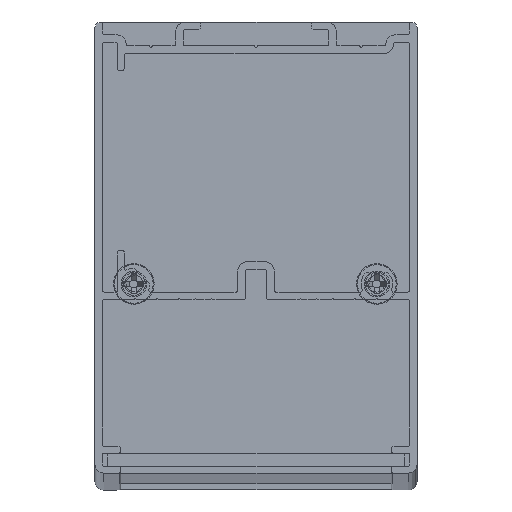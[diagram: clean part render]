
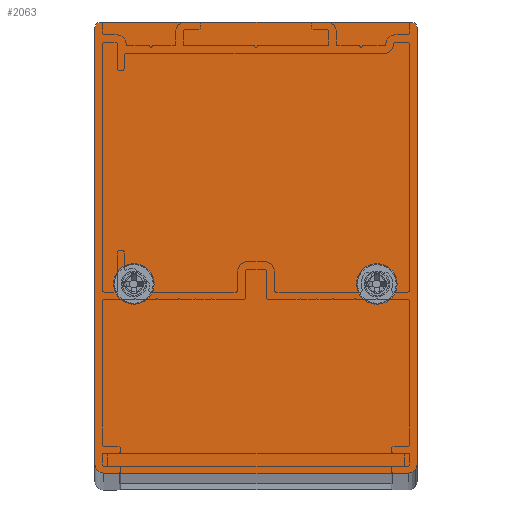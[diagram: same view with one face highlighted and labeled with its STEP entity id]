
A CAD part, top view. The second image highlights one B-rep face of the part: STEP entity #2063.
In plain terms, the highlighted planar face has unit normal (0, 0, 1).
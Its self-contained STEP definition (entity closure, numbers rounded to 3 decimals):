
#2063=ADVANCED_FACE('',(#3819,#3821,#3823),#3825,.T.);
#3819=FACE_BOUND('',#3820,.T.);
#3820=EDGE_LOOP('',(#5632,#5633,#5634,#5635,#5636,#5637,#5638,#5639));
#3821=FACE_BOUND('',#3822,.T.);
#3822=EDGE_LOOP('',(#5640));
#3823=FACE_BOUND('',#3824,.T.);
#3824=EDGE_LOOP('',(#5641));
#3825=PLANE('',#3826);
#3826=AXIS2_PLACEMENT_3D('',#3827,#3828,#3829);
#3827=CARTESIAN_POINT('',(0.,0.,751.));
#3828=DIRECTION('',(0.,0.,1.));
#3829=DIRECTION('',(1.,0.,0.));
#5632=ORIENTED_EDGE('',*,*,#6478,.T.);
#5633=ORIENTED_EDGE('',*,*,#6479,.T.);
#5634=ORIENTED_EDGE('',*,*,#6480,.T.);
#5635=ORIENTED_EDGE('',*,*,#6481,.T.);
#5636=ORIENTED_EDGE('',*,*,#6482,.T.);
#5637=ORIENTED_EDGE('',*,*,#6483,.T.);
#5638=ORIENTED_EDGE('',*,*,#6484,.T.);
#5639=ORIENTED_EDGE('',*,*,#6485,.T.);
#5640=ORIENTED_EDGE('',*,*,#6486,.T.);
#5641=ORIENTED_EDGE('',*,*,#6487,.T.);
#6478=EDGE_CURVE('',#7607,#7608,#7609,.T.);
#6479=EDGE_CURVE('',#7608,#7610,#7611,.T.);
#6480=EDGE_CURVE('',#7610,#7612,#7613,.T.);
#6481=EDGE_CURVE('',#7612,#7614,#7615,.T.);
#6482=EDGE_CURVE('',#7614,#7616,#7617,.T.);
#6483=EDGE_CURVE('',#7616,#7618,#7619,.T.);
#6484=EDGE_CURVE('',#7618,#7620,#7621,.T.);
#6485=EDGE_CURVE('',#7620,#7607,#7622,.T.);
#6486=EDGE_CURVE('',#7623,#7623,#7624,.F.);
#6487=EDGE_CURVE('',#7625,#7625,#7626,.F.);
#7607=VERTEX_POINT('',#10333);
#7608=VERTEX_POINT('',#10334);
#7609=LINE('',#10335,#10336);
#7610=VERTEX_POINT('',#10338);
#7611=CIRCLE('',#10339,0.9);
#7612=VERTEX_POINT('',#10343);
#7613=LINE('',#10344,#10345);
#7614=VERTEX_POINT('',#10347);
#7615=CIRCLE('',#10348,0.9);
#7616=VERTEX_POINT('',#10352);
#7617=LINE('',#10353,#10354);
#7618=VERTEX_POINT('',#10356);
#7619=CIRCLE('',#10357,1.35);
#7620=VERTEX_POINT('',#10361);
#7621=LINE('',#10362,#10363);
#7622=CIRCLE('',#10365,1.35);
#7623=VERTEX_POINT('',#10369);
#7624=CIRCLE('',#10370,3.);
#7625=VERTEX_POINT('',#10374);
#7626=CIRCLE('',#10375,3.);
#10333=CARTESIAN_POINT('',(25.,-63.75,751.));
#10334=CARTESIAN_POINT('',(25.,4.,751.));
#10335=CARTESIAN_POINT('',(25.,-63.75,751.));
#10336=VECTOR('',#10337,1.);
#10337=DIRECTION('',(0.,1.,0.));
#10338=CARTESIAN_POINT('',(24.1,4.9,751.));
#10339=AXIS2_PLACEMENT_3D('',#10340,#10341,#10342);
#10340=CARTESIAN_POINT('',(24.1,4.,751.));
#10341=DIRECTION('',(-0.,0.,1.));
#10342=DIRECTION('',(1.,0.,0.));
#10343=CARTESIAN_POINT('',(-24.1,4.9,751.));
#10344=CARTESIAN_POINT('',(24.1,4.9,751.));
#10345=VECTOR('',#10346,1.);
#10346=DIRECTION('',(-1.,0.,0.));
#10347=CARTESIAN_POINT('',(-25.,4.,751.));
#10348=AXIS2_PLACEMENT_3D('',#10349,#10350,#10351);
#10349=CARTESIAN_POINT('',(-24.1,4.,751.));
#10350=DIRECTION('',(0.,0.,1.));
#10351=DIRECTION('',(0.,1.,0.));
#10352=CARTESIAN_POINT('',(-25.,-63.75,751.));
#10353=CARTESIAN_POINT('',(-25.,4.,751.));
#10354=VECTOR('',#10355,1.);
#10355=DIRECTION('',(0.,-1.,0.));
#10356=CARTESIAN_POINT('',(-23.65,-65.1,751.));
#10357=AXIS2_PLACEMENT_3D('',#10358,#10359,#10360);
#10358=CARTESIAN_POINT('',(-23.65,-63.75,751.));
#10359=DIRECTION('',(0.,0.,1.));
#10360=DIRECTION('',(-1.,0.,0.));
#10361=CARTESIAN_POINT('',(23.65,-65.1,751.));
#10362=CARTESIAN_POINT('',(-23.65,-65.1,751.));
#10363=VECTOR('',#10364,1.);
#10364=DIRECTION('',(1.,0.,0.));
#10365=AXIS2_PLACEMENT_3D('',#10366,#10367,#10368);
#10366=CARTESIAN_POINT('',(23.65,-63.75,751.));
#10367=DIRECTION('',(0.,-0.,1.));
#10368=DIRECTION('',(0.,-1.,0.));
#10369=CARTESIAN_POINT('',(21.749,-35.751,751.));
#10370=AXIS2_PLACEMENT_3D('',#10371,#10372,#10373);
#10371=CARTESIAN_POINT('',(18.749,-35.751,751.));
#10372=DIRECTION('',(0.,0.,1.));
#10373=DIRECTION('',(1.,0.,0.));
#10374=CARTESIAN_POINT('',(-15.956,-35.747,751.));
#10375=AXIS2_PLACEMENT_3D('',#10376,#10377,#10378);
#10376=CARTESIAN_POINT('',(-18.956,-35.747,751.));
#10377=DIRECTION('',(0.,0.,1.));
#10378=DIRECTION('',(1.,0.,0.));
